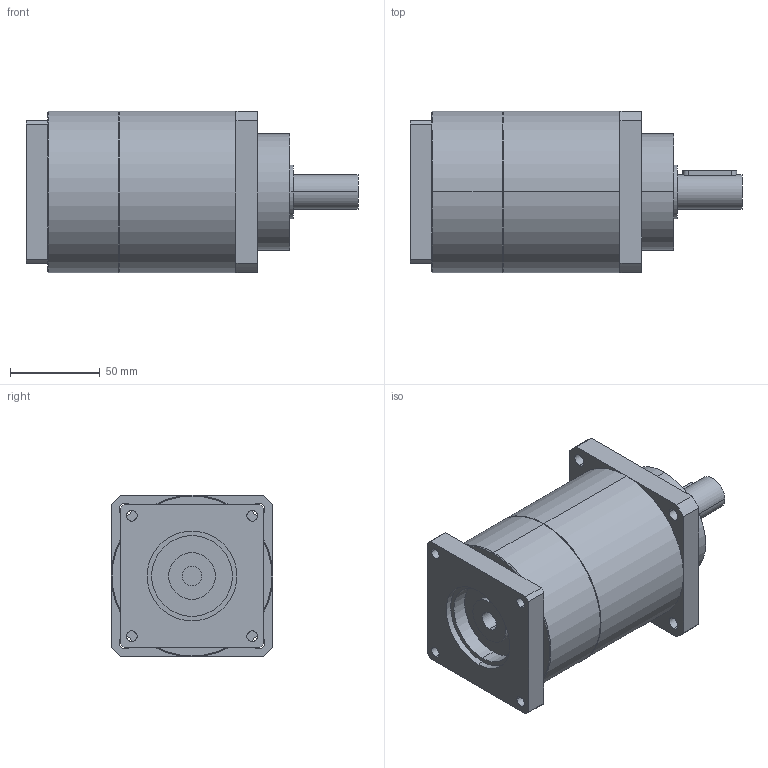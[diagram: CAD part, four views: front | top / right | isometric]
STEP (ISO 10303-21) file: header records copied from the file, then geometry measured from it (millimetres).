
FILE_DESCRIPTION(('CoCreate Modeling STEP Export'),'2;1');
FILE_NAME('GPT90_ig-9-12-16-20-25-28-35-40-50-70-100_19_B5T_11_P21.stp','2015-02-04T11:24:37',(''),(''),'CoCreate Modeling STEP processor for AP214 (Solid Model)','CoCreate Modeling 16.00C 25-Feb-2009 (C) Parametric Technology GmbH','');
FILE_SCHEMA(('AUTOMOTIVE_DESIGN { 1 0 10303 214 1 1 1 1 }'));
Length unit declared in the file: millimetre
Products named in the file (2): GPT90_ig-9-12-16-20-25-28-35-40-50-70-100_19_B5T_11_P21
Assembly tree (1 placements, depth 2):
  GPT90_ig-9-12-16-20-25-28-35-40-50-70-100_19_B5T_11_P21
    GPT90_ig-9-12-16-20-25-28-35-40-50-70-100_19_B5T_11_P21
Bounding box: 185 x 90 x 90 mm (x, y, z)
Volume: 887168.5 mm3; surface area: 66265 mm2
Topology: 1 solids, 1 shells, 84 faces, 229 edges, 152 vertices
Faces by surface type: cylinder 46, plane 34, cone 4
Entity records: 2719 total; most frequent: CARTESIAN_POINT 758, ORIENTED_EDGE 458, DIRECTION 330, EDGE_CURVE 229, VERTEX_POINT 152, AXIS2_PLACEMENT_3D 121, EDGE_LOOP 105, VECTOR 88
